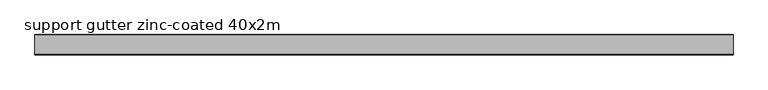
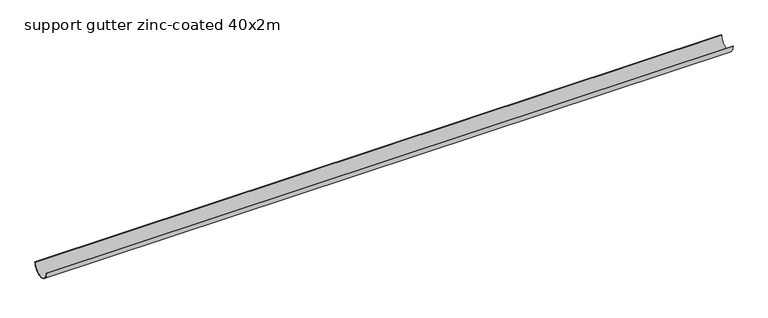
"""IFC4 building model written with IfcOpenShell, lengths in millimetres: valve geometry, PP-R_Support gutter zinc-coated : support gutter zinc-coated 40x2m."""

from ifc_helpers import new_model, si_unit, point, frame, frame_2d, origin, place, context, project, spatial, polyline, circle_curve, trimmed, segment, composite_curve, outline, extrude, source, transform, mapped, element, save


def support_gutter_zinc_coated_40x2m_fc38df55(model_context):
    return source(origin(), model_context, "Body", "SweptSolid", [
        extrude(outline(composite_curve([segment(trimmed(circle_curve(frame_2d((0.0, -21.0)), 21.0), [point((-21.0, -21.0))], [point((21.0, -21.0))], True, "CARTESIAN"), True, "CONTINUOUS"), segment(polyline([(21.0, -21.0), (22.0, -21.0)]), True, "CONTINUOUS"), segment(trimmed(circle_curve(frame_2d((0.0, -21.0)), 22.0), [point((22.0, -21.0))], [point((-22.0, -21.0))], False, "CARTESIAN"), True, "CONTINUOUS"), segment(polyline([(-22.0, -21.0), (-21.0, -21.0)]), True, "CONTINUOUS")], self_intersect=False)), frame((9.5156627, 0.0, 0.0), z_axis=(1.0, 0.0, 0.0), x_axis=(0.0, 1.0, 0.0)), (0.0, 0.0, 1.0), 1500.0),
    ])


if __name__ == "__main__":
    model = new_model("IFC4")
    model_context = context("Model", 3, world=origin())
    ifc_project = project(units=[si_unit("LENGTHUNIT", "METRE", prefix="MILLI")], contexts=[model_context])
    site = spatial("IfcSite", under=ifc_project)
    building = spatial("IfcBuilding", under=site)
    placement = place(None, origin())
    support_gutter_zinc_coated_40x2m_shape = support_gutter_zinc_coated_40x2m_fc38df55(model_context)
    element("IfcValve", 1, ObjectType="PP-R_Support gutter zinc-coated : support gutter zinc-coated 40x2m", at=placement, inside=building, context=model_context, shape_type="MappedRepresentation", body=[
        mapped(support_gutter_zinc_coated_40x2m_shape, transform((0.0, 0.0, 0.0), x_axis=(1.0, 0.0, 0.0), y_axis=(0.0, 1.0, 0.0), z_axis=(0.0, 0.0, 1.0))),
    ])
    save(model, "model.ifc")
